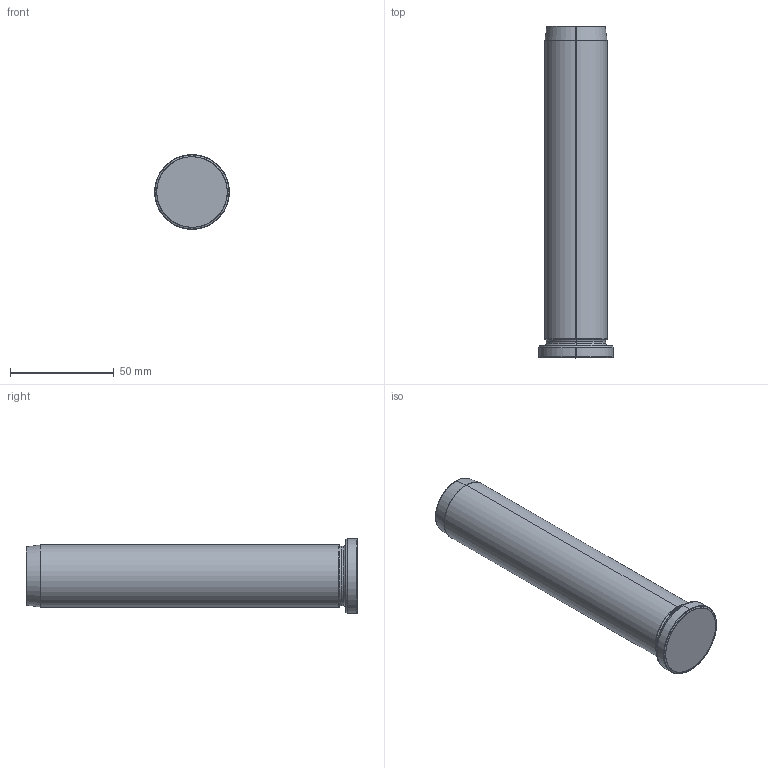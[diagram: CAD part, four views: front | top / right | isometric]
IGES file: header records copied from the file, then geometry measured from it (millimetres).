
Start section: SolidWorks IGES file using analytic representation for surfaces
Global section: file name: C:\Documents and Settings\kalite-mail\Desktop\IGS\D08\D08 30X160.IGS; native system: SolidWorks 2008; preprocessor: SolidWorks 2008; author: kalite-mail; date: 080707.122539; units: millimetre
Bounding box: 36 x 160 x 36 mm (x, y, z)
Surface area: 17081 mm2 (no closed solid volume)
Topology: 0 solids, 0 shells, 33 faces, 376 edges, 376 vertices
Faces by surface type: bspline 21, revolution 12
